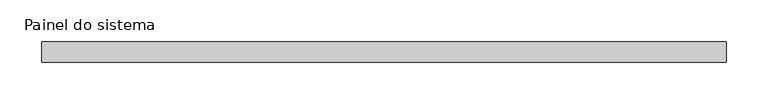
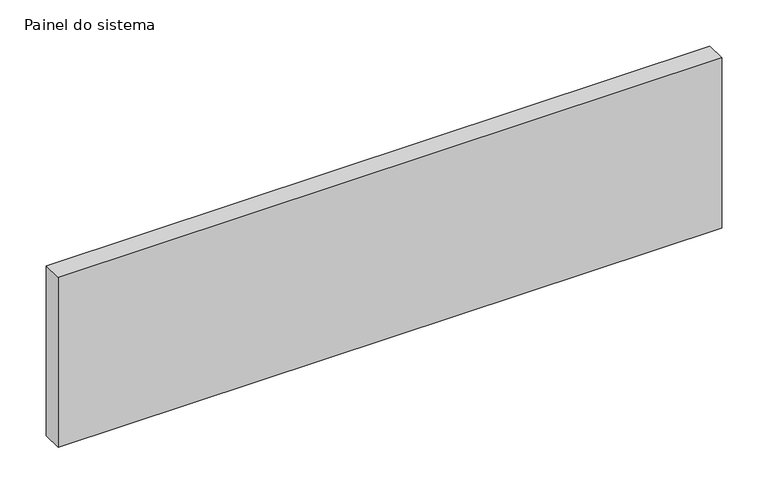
"""IFC4 building model written with IfcOpenShell, lengths in millimetres: plate geometry, Painel do sistema : Envidraçado."""

from ifc_helpers import new_model, si_unit, origin, origin_with_axes, place, context, project, spatial, polyline, outline, extrude, source, transform, mapped, element, save


def painel_do_sistema_13247361(model_context):
    return source(origin(), model_context, "Body", "SweptSolid", [
        extrude(outline(polyline([(412.5, 24.5), (-412.5, 24.5), (-412.5, 49.5), (412.5, 49.5), (412.5, 24.5)])), origin_with_axes(), (0.0, 0.0, 1.0), 223.6217085),
    ])


if __name__ == "__main__":
    model = new_model("IFC4")
    model_context = context("Model", 3, world=origin())
    ifc_project = project(units=[si_unit("LENGTHUNIT", "METRE", prefix="MILLI")], contexts=[model_context])
    site = spatial("IfcSite", under=ifc_project)
    building = spatial("IfcBuilding", under=site)
    placement = place(None, origin())
    painel_do_sistema_shape = painel_do_sistema_13247361(model_context)
    element("IfcPlate", 1, ObjectType="Painel do sistema : Envidraçado", at=placement, inside=building, context=model_context, shape_type="MappedRepresentation", body=[
        mapped(painel_do_sistema_shape, transform((0.0, 0.0, 0.0), x_axis=(1.0, 0.0, 0.0), y_axis=(0.0, 1.0, 0.0), z_axis=(0.0, 0.0, 1.0))),
    ])
    save(model, "model.ifc")
